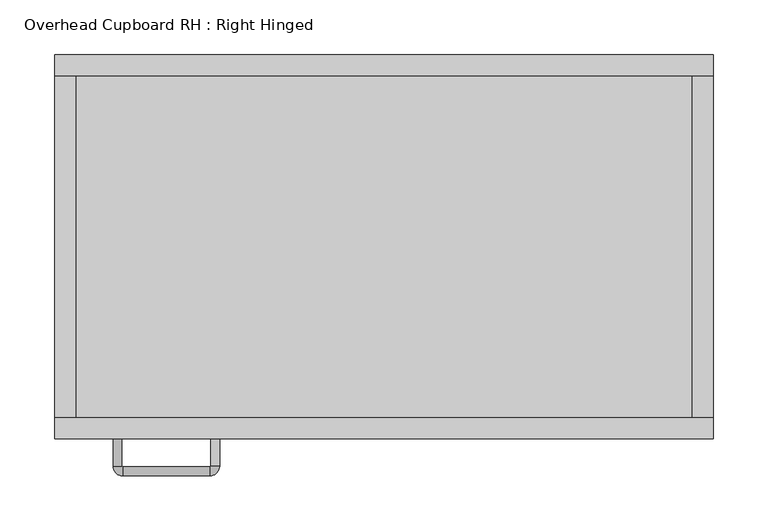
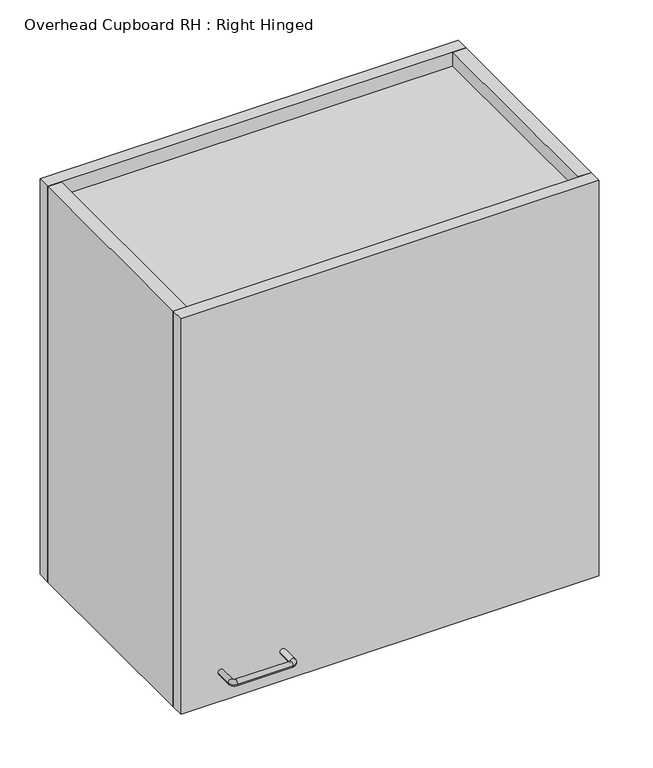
"""IFC4 building model written with IfcOpenShell, lengths in millimetres: furniture geometry, Overhead Cupboard RH : Right Hinged."""

from ifc_helpers import new_model, si_unit, point, frame, origin, place, context, project, spatial, polyline, circle_curve, ellipse_curve, trimmed, outline, extrude, source, transform, mapped, element, save
from ifc_brep_helpers import plane_surface, cylinder_surface, revolved_surface, advanced_brep


def overhead_cupboard_rh_right_hinged_902969af(model_context):
    return source(origin(), model_context, "Body", "SolidModel", [
        advanced_brep(
        [(-239.8750083, -350.0, 1544.45), (-231.7587693, -350.0, 1544.45), (-239.8750083, -374.6956341, 1544.45), (-231.7587693, -374.6956341, 1544.45), (-231.0543888, -375.4000146, 1544.45), (-231.0543888, -383.5162536, 1544.45), (-151.5456112, -383.5162536, 1544.45), (-151.5456112, -375.4000146, 1544.45), (-150.8412307, -374.6956341, 1544.45), (-142.7249917, -374.6956341, 1544.45), (-142.7249917, -350.0, 1544.45), (-150.8412307, -350.0, 1544.45)],
        [
            (0, 1, circle_curve(frame((-235.8168888, -350.0, 1544.45), z_axis=(0.0, 1.0, 0.0), x_axis=(1.0, 0.0, 0.0)), 4.0581195)),
            (1, 0, circle_curve(frame((-235.8168888, -350.0, 1544.45), z_axis=(0.0, 1.0, 0.0), x_axis=(1.0, 0.0, 0.0)), 4.0581195)),
            (0, 2),
            (2, 3, circle_curve(frame((-235.8168888, -374.6956341, 1544.45), z_axis=(0.0, 1.0, 0.0), x_axis=(1.0, 0.0, 0.0)), 4.0581195)),
            (3, 1),
            (3, 2, circle_curve(frame((-235.8168888, -374.6956341, 1544.45), z_axis=(0.0, 1.0, 0.0), x_axis=(1.0, 0.0, 0.0)), 4.0581195)),
            (4, 3, circle_curve(frame((-231.0543888, -374.6956341, 1544.45), z_axis=(0.0, 0.0, -1.0), x_axis=(-1.0, 0.0, 0.0)), 0.7043805)),
            (2, 5, circle_curve(frame((-231.0543888, -374.6956341, 1544.45), z_axis=(0.0, 0.0, 1.0), x_axis=(-1.0, 0.0, 0.0)), 8.8206195)),
            (5, 4, circle_curve(frame((-231.0543888, -379.4581341, 1544.45), z_axis=(-1.0, 0.0, 0.0), x_axis=(0.0, 1.0, 0.0)), 4.0581195)),
            (4, 5, circle_curve(frame((-231.0543888, -379.4581341, 1544.45), z_axis=(-1.0, 0.0, 0.0), x_axis=(0.0, 1.0, 0.0)), 4.0581195)),
            (5, 6),
            (6, 7, circle_curve(frame((-151.5456112, -379.4581341, 1544.45), z_axis=(-1.0, 0.0, 0.0), x_axis=(0.0, 1.0, 0.0)), 4.0581195)),
            (7, 4),
            (7, 6, circle_curve(frame((-151.5456112, -379.4581341, 1544.45), z_axis=(-1.0, 0.0, 0.0), x_axis=(0.0, 1.0, 0.0)), 4.0581195)),
            (8, 7, circle_curve(frame((-151.5456112, -374.6956341, 1544.45), z_axis=(0.0, 0.0, -1.0), x_axis=(0.0, -1.0, 0.0)), 0.7043805)),
            (6, 9, circle_curve(frame((-151.5456112, -374.6956341, 1544.45), z_axis=(0.0, 0.0, 1.0), x_axis=(0.0, -1.0, 0.0)), 8.8206195)),
            (9, 8, circle_curve(frame((-146.7831112, -374.6956341, 1544.45), z_axis=(0.0, -1.0, 0.0), x_axis=(-1.0, 0.0, 0.0)), 4.0581195)),
            (8, 9, circle_curve(frame((-146.7831112, -374.6956341, 1544.45), z_axis=(0.0, -1.0, 0.0), x_axis=(-1.0, 0.0, 0.0)), 4.0581195)),
            (10, 11, circle_curve(frame((-146.7831112, -350.0, 1544.45), z_axis=(0.0, 1.0, 0.0), x_axis=(-1.0, 0.0, 0.0)), 4.0581195)),
            (11, 10, circle_curve(frame((-146.7831112, -350.0, 1544.45), z_axis=(0.0, 1.0, 0.0), x_axis=(-1.0, 0.0, 0.0)), 4.0581195)),
            (9, 10),
            (11, 8),
        ],
        [
            plane_surface(frame((-235.8168888, -350.0, 1544.45), z_axis=(0.0, 1.0, 0.0), x_axis=(0.0, 0.0, 1.0))),
            cylinder_surface(frame((-235.8168888, -350.0, 1544.45), z_axis=(0.0, 1.0, 0.0), x_axis=(1.0, 0.0, 0.0)), 4.0581195),
            revolved_surface(trimmed(ellipse_curve(frame((-235.8168888, -374.6956341, 1544.45), z_axis=(0.0, 1.0, 0.0), x_axis=(1.0, 0.0, 0.0)), 4.0581195, 4.0581195), [point((-239.8750083, -374.6956341, 1544.45))], [point((-231.7587693, -374.6956341, 1544.45))], True, "CARTESIAN"), (-231.0543888, -374.6956341, 1544.45), (0.0, 0.0, 1.0)),
            revolved_surface(trimmed(ellipse_curve(frame((-235.8168888, -374.6956341, 1544.45), z_axis=(0.0, 1.0, 0.0), x_axis=(1.0, 0.0, 0.0)), 4.0581195, 4.0581195), [point((-231.7587693, -374.6956341, 1544.45))], [point((-239.8750083, -374.6956341, 1544.45))], True, "CARTESIAN"), (-231.0543888, -374.6956341, 1544.45), (0.0, 0.0, 1.0)),
            cylinder_surface(frame((-231.0543888, -379.4581341, 1544.45), z_axis=(-1.0, 0.0, 0.0), x_axis=(0.0, 1.0, 0.0)), 4.0581195),
            revolved_surface(trimmed(ellipse_curve(frame((-151.5456112, -379.4581341, 1544.45), z_axis=(-1.0, 0.0, 0.0), x_axis=(0.0, 1.0, 0.0)), 4.0581195, 4.0581195), [point((-151.5456112, -383.5162536, 1544.45))], [point((-151.5456112, -375.4000146, 1544.45))], True, "CARTESIAN"), (-151.5456112, -374.6956341, 1544.45), (0.0, 0.0, 1.0)),
            revolved_surface(trimmed(ellipse_curve(frame((-151.5456112, -379.4581341, 1544.45), z_axis=(-1.0, 0.0, 0.0), x_axis=(0.0, 1.0, 0.0)), 4.0581195, 4.0581195), [point((-151.5456112, -375.4000146, 1544.45))], [point((-151.5456112, -383.5162536, 1544.45))], True, "CARTESIAN"), (-151.5456112, -374.6956341, 1544.45), (0.0, 0.0, 1.0)),
            plane_surface(frame((-146.7831112, -350.0, 1544.45), z_axis=(0.0, 1.0, 0.0), x_axis=(0.0, 0.0, 1.0))),
            cylinder_surface(frame((-146.7831112, -374.6956341, 1544.45), z_axis=(0.0, -1.0, 0.0), x_axis=(-1.0, 0.0, 0.0)), 4.0581195),
        ],
        [
            (0, [[1, 2]]),
            (1, [[-1, 3, 4, 5]]),
            (1, [[-2, -5, 6, -3]]),
            (2, [[7, -4, 8, 9]]),
            (3, [[-8, -6, -7, 10]]),
            (4, [[-9, 11, 12, 13]]),
            (4, [[-10, -13, 14, -11]]),
            (5, [[15, -12, 16, 17]]),
            (6, [[-16, -14, -15, 18]]),
            (7, [[19, 20]]),
            (8, [[-17, 21, -20, 22]]),
            (8, [[-18, -22, -19, -21]]),
        ],
    ),
        extrude(outline(polyline([(288.05, -19.05), (288.05, -342.8781634), (-273.85, -342.8781634), (-273.85, -19.05), (288.05, -19.05)])), frame((0.0, 0.0, 2040.6478651), z_axis=(0.0, 0.0, 1.0), x_axis=(1.0, 0.0, 0.0)), (0.0, 0.0, 1.0), 38.3521349),
        extrude(outline(polyline([(-292.9, -330.9390817), (307.1, -330.9390817), (307.1, -350.0), (-292.9, -350.0), (-292.9, -330.9390817)])), frame((0.0, 0.0, 1500.0), z_axis=(0.0, 0.0, 1.0), x_axis=(1.0, 0.0, 0.0)), (0.0, 0.0, 1.0), 600.0),
        extrude(outline(polyline([(-292.9, 0.0), (307.1, 0.0), (307.1, -19.05), (-292.9, -19.05), (-292.9, 0.0)])), frame((0.0, 0.0, 1500.0), z_axis=(0.0, 0.0, 1.0), x_axis=(1.0, 0.0, 0.0)), (0.0, 0.0, 1.0), 600.0),
        extrude(outline(polyline([(307.1, -19.05), (307.1, -330.9390817), (288.05, -330.9390817), (288.05, -19.05), (307.1, -19.05)])), frame((0.0, 0.0, 1500.0), z_axis=(0.0, 0.0, 1.0), x_axis=(1.0, 0.0, 0.0)), (0.0, 0.0, 1.0), 600.0),
        extrude(outline(polyline([(-273.85, -19.05), (-273.85, -330.9390817), (-292.9, -330.9390817), (-292.9, -19.05), (-273.85, -19.05)])), frame((0.0, 0.0, 1500.0), z_axis=(0.0, 0.0, 1.0), x_axis=(1.0, 0.0, 0.0)), (0.0, 0.0, 1.0), 600.0),
    ])


if __name__ == "__main__":
    model = new_model("IFC4")
    model_context = context("Model", 3, world=origin())
    ifc_project = project(units=[si_unit("LENGTHUNIT", "METRE", prefix="MILLI")], contexts=[model_context])
    site = spatial("IfcSite", under=ifc_project)
    building = spatial("IfcBuilding", under=site)
    placement = place(None, origin())
    overhead_cupboard_rh_right_hinged_shape = overhead_cupboard_rh_right_hinged_902969af(model_context)
    element("IfcFurniture", 1, ObjectType="Overhead Cupboard RH : Right Hinged", at=placement, inside=building, context=model_context, shape_type="MappedRepresentation", body=[
        mapped(overhead_cupboard_rh_right_hinged_shape, transform((0.0, 0.0, 0.0), x_axis=(1.0, 0.0, 0.0), y_axis=(0.0, 1.0, 0.0), z_axis=(0.0, 0.0, 1.0))),
    ])
    save(model, "model.ifc")
